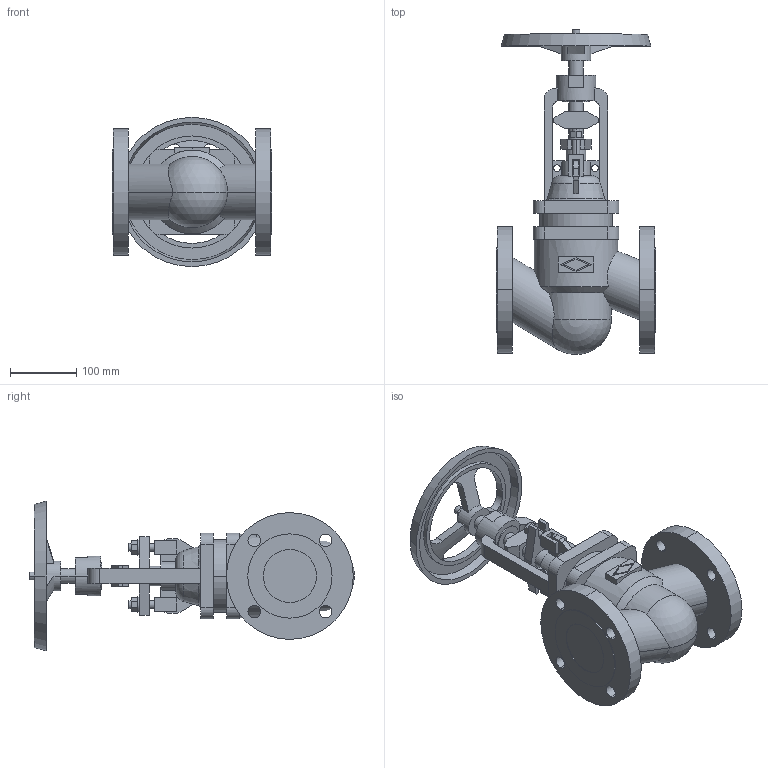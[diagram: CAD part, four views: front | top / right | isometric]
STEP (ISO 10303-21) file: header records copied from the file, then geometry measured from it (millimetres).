
FILE_DESCRIPTION(('OneSpaceDesigner STEP Export'),'2;1');
FILE_NAME('c000004226.stp','2010-04-30T 9:26:33',(''),(''),'OneSpace Designer STEP processor for AP214 (Solid Model)','OneSpace Modeling 15.50B 03-Nov-2007 (C) CoCreate Software GmbH','');
FILE_SCHEMA(('AUTOMOTIVE_DESIGN { 1 0 10303 214 1 1 1 1 }'));
Length unit declared in the file: millimetre
Products named in the file (1): 1
Bounding box: 241 x 489.75 x 225 mm (x, y, z)
Volume: 5234690.3 mm3; surface area: 445989.1 mm2
Topology: 1 solids, 1 shells, 290 faces, 758 edges, 495 vertices
Faces by surface type: plane 155, cylinder 105, cone 18, torus 10, sphere 2
Entity records: 11432 total; most frequent: CARTESIAN_POINT 2290, ORIENTED_EDGE 1512, DIRECTION 1272, EDGE_CURVE 756, VERTEX_POINT 495, AXIS2_PLACEMENT_3D 424, VECTOR 424, LINE 424
